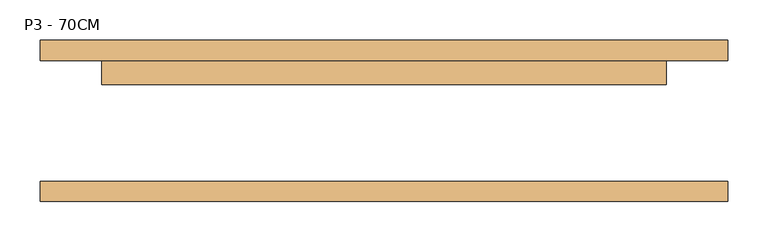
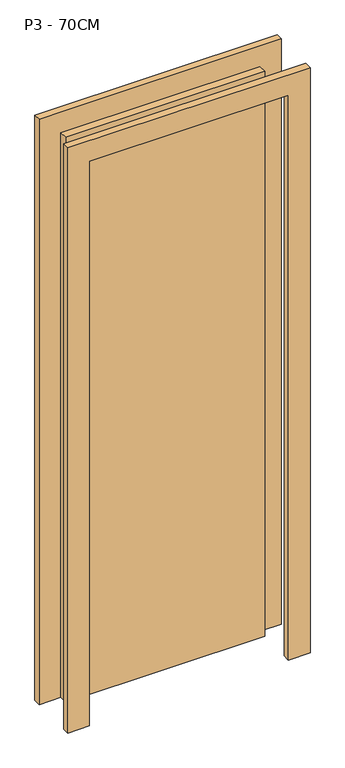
"""IFC4 building model written with IfcOpenShell, lengths in millimetres: door geometry, M_Folha única1 : P3 - 70CM."""

from ifc_helpers import new_model, si_unit, frame, origin, origin_with_axes, place, context, project, spatial, polyline, outline, extrude, source, transform, mapped, element, save


def p3_70cm_ef4d15e3(model_context):
    return source(origin(), model_context, "Body", "SweptSolid", [
        extrude(outline(polyline([(2176.0, -426.0), (0.0, -426.0), (0.0, -350.0), (2100.0, -350.0), (2100.0, 350.0), (0.0, 350.0), (0.0, 426.0), (2176.0, 426.0), (2176.0, -426.0)])), frame((0.0, 75.0, 0.0), z_axis=(0.0, 1.0, 0.0), x_axis=(0.0, 0.0, 1.0)), (0.0, 0.0, 1.0), 25.0),
        extrude(outline(polyline([(2176.0, 426.0), (2176.0, -426.0), (0.0, -426.0), (0.0, -350.0), (2100.0, -350.0), (2100.0, 350.0), (0.0, 350.0), (0.0, 426.0), (2176.0, 426.0)])), frame((0.0, -100.0, 0.0), z_axis=(0.0, 1.0, 0.0), x_axis=(0.0, 0.0, 1.0)), (0.0, 0.0, 1.0), 25.0),
        extrude(outline(polyline([(350.0, 45.0), (-350.0, 45.0), (-350.0, 75.0), (350.0, 75.0), (350.0, 45.0)])), origin_with_axes(), (0.0, 0.0, 1.0), 2100.0),
    ])


if __name__ == "__main__":
    model = new_model("IFC4")
    model_context = context("Model", 3, world=origin())
    ifc_project = project(units=[si_unit("LENGTHUNIT", "METRE", prefix="MILLI")], contexts=[model_context])
    site = spatial("IfcSite", under=ifc_project)
    building = spatial("IfcBuilding", under=site)
    placement = place(None, origin())
    p3_70cm_shape = p3_70cm_ef4d15e3(model_context)
    element("IfcDoor", 1, ObjectType="M_Folha única1 : P3 - 70CM", at=placement, inside=building, context=model_context, shape_type="MappedRepresentation", body=[
        mapped(p3_70cm_shape, transform((0.0, 0.0, 0.0), x_axis=(1.0, 0.0, 0.0), y_axis=(0.0, 1.0, 0.0), z_axis=(0.0, 0.0, 1.0))),
    ])
    save(model, "model.ifc")
